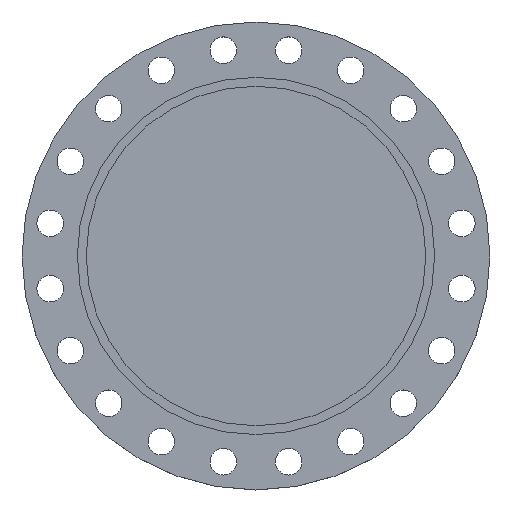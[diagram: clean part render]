
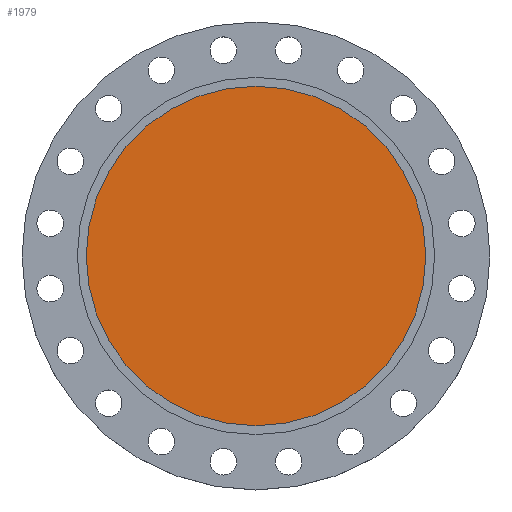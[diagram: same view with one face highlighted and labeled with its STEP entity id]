
A CAD part, top view. The second image highlights one B-rep face of the part: STEP entity #1979.
In plain terms, the highlighted planar face has unit normal (0, 0, 1).
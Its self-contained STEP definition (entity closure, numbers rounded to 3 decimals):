
#15 = CIRCLE ( 'NONE', #1466, 248.5 ) ;
#16 = DIRECTION ( 'NONE',  ( 1., 0., 0. ) ) ;
#66 = CARTESIAN_POINT ( 'NONE',  ( -248.5, 0., -5.5 ) ) ;
#211 = PLANE ( 'NONE',  #1728 ) ;
#532 = DIRECTION ( 'NONE',  ( -1., 0., 0. ) ) ;
#533 = DIRECTION ( 'NONE',  ( 0., 0., -1. ) ) ;
#535 = CARTESIAN_POINT ( 'NONE',  ( 0., 0., -5.5 ) ) ;
#603 = CARTESIAN_POINT ( 'NONE',  ( 248.5, 0., -5.5 ) ) ;
#611 = DIRECTION ( 'NONE',  ( -1., 0., 0. ) ) ;
#612 = DIRECTION ( 'NONE',  ( 0., 0., -1. ) ) ;
#613 = CARTESIAN_POINT ( 'NONE',  ( 0., 0., -5.5 ) ) ;
#768 = EDGE_CURVE ( 'NONE', #1711, #1617, #1924, .T. ) ;
#966 = EDGE_CURVE ( 'NONE', #1617, #1711, #15, .T. ) ;
#997 = EDGE_LOOP ( 'NONE', ( #1153, #1149 ) ) ;
#1050 = CARTESIAN_POINT ( 'NONE',  ( 248.5, 0., -5.5 ) ) ;
#1149 = ORIENTED_EDGE ( 'NONE', *, *, #768, .F. ) ;
#1153 = ORIENTED_EDGE ( 'NONE', *, *, #966, .F. ) ;
#1230 = AXIS2_PLACEMENT_3D ( 'NONE', #613, #612, #611 ) ;
#1466 = AXIS2_PLACEMENT_3D ( 'NONE', #535, #533, #532 ) ;
#1617 = VERTEX_POINT ( 'NONE', #66 ) ;
#1675 = DIRECTION ( 'NONE',  ( 0., 0., 1. ) ) ;
#1711 = VERTEX_POINT ( 'NONE', #603 ) ;
#1728 = AXIS2_PLACEMENT_3D ( 'NONE', #1050, #1675, #16 ) ;
#1833 = FACE_OUTER_BOUND ( 'NONE', #997, .T. ) ;
#1924 = CIRCLE ( 'NONE', #1230, 248.5 ) ;
#1979 = ADVANCED_FACE ( 'NONE', ( #1833 ), #211, .T. ) ;
